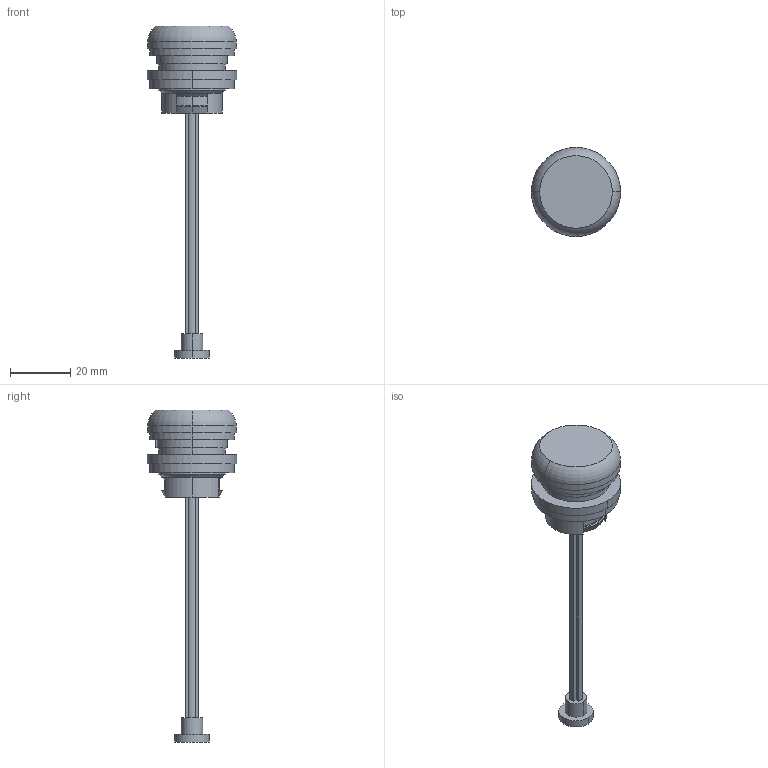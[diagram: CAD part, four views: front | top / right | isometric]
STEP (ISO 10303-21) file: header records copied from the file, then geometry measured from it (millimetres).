
FILE_DESCRIPTION( ( '' ), '1' );
FILE_NAME( '//expscmdclustefs.cadenas.external/client_exchange/iodir/jobs/output/wkb45454533_no0/STEP/271640_2_03.stp', '2012-05-30T15:58:26', ( '' ), ( '' ), ' ', ' ', ' ' );
FILE_SCHEMA( ( 'CONFIG_CONTROL_DESIGN' ) );
Length unit declared in the file: millimetre
Products named in the file (1): 1
Bounding box: 29.5 x 29.5 x 109.8 mm (x, y, z)
Volume: 15974.8 mm3; surface area: 5711.3 mm2
Topology: 1 solids, 1 shells, 80 faces, 196 edges, 127 vertices
Faces by surface type: plane 35, cylinder 27, cone 16, torus 2
Entity records: 2415 total; most frequent: DIRECTION 437, CARTESIAN_POINT 428, ORIENTED_EDGE 392, EDGE_CURVE 196, AXIS2_PLACEMENT_3D 172, VERTEX_POINT 127, LINE 93, VECTOR 93
